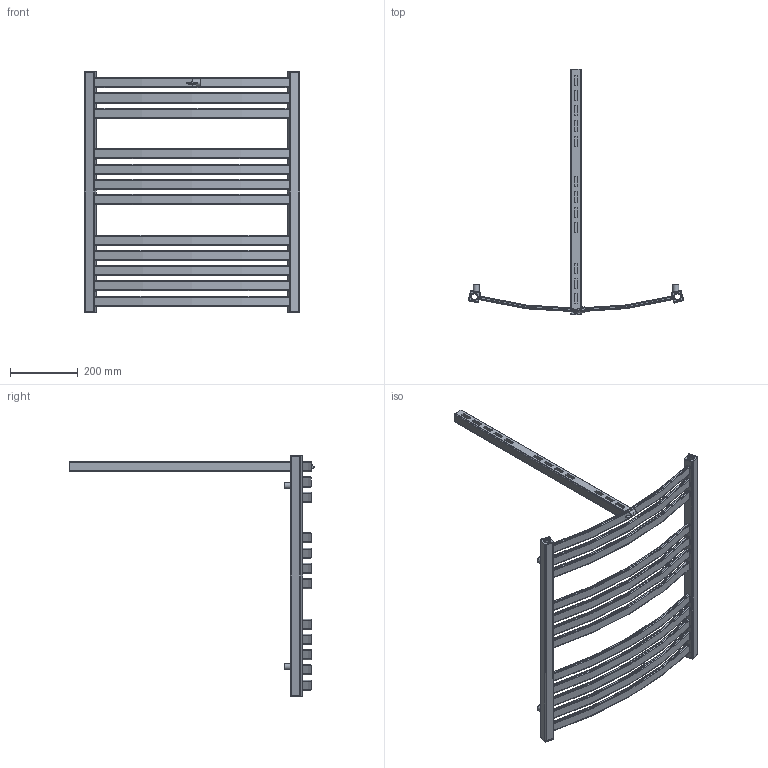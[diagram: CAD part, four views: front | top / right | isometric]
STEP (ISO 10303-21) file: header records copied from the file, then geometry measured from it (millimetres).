
FILE_DESCRIPTION( ( 'Unknown' ), '1' );
FILE_NAME( 'D:/Alplast sp. j/Witryna zespoBu - Projekty/Archiwum/Grzejniki Archiwum/Projekty/STANDARD/AK-EL/AK2-600EL.stp', 'Unknown', ( 'Unknown' ), ( 'Unknown' ), 'PSStep 10.1', 'Unknown', ' ' );
FILE_SCHEMA( ( 'AUTOMOTIVE_DESIGN { 1 0 10303 214 1 1 1 1 }' ) );
Length unit declared in the file: millimetre
Products named in the file (5): Assem1; zaslepka kwadrat otwor; tulejka kat 12stopni; kana³  poziomy lukowy L-600; AK2-EPEL
Bounding box: 635.8 x 726 x 715 mm (x, y, z)
Volume: 1154277.7 mm3; surface area: 1545730.5 mm2
Topology: 26 solids, 26 shells, 716 faces, 1982 edges, 1328 vertices
Faces by surface type: plane 322, cylinder 280, torus 114
Full cylindrical faces by diameter (mm): 16 x5, 18 x5, 18.631 x5, 23 x5
Entity records: 6754 total; most frequent: DIRECTION 986, CARTESIAN_POINT 931, ORIENTED_EDGE 892, EDGE_CURVE 446, AXIS2_PLACEMENT_3D 357, VERTEX_POINT 302, LINE 272, VECTOR 272
